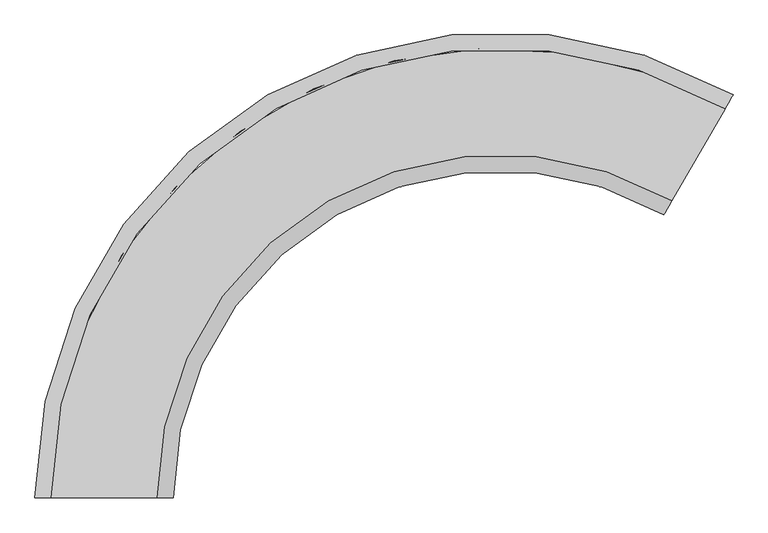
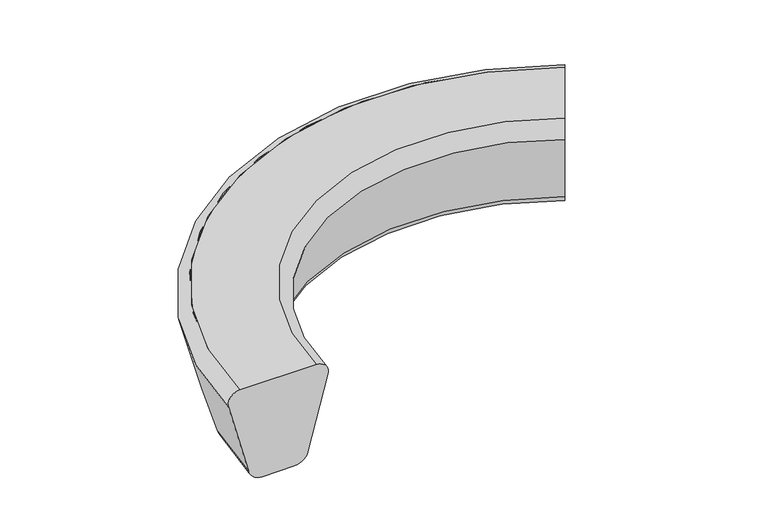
"""IFC4 building model written with IfcOpenShell, lengths in millimetres: furniture geometry, out-sider - Loop - Arc - Bench : out-sider - Loop - Arc - Bench."""

import ifcopenshell
import ifcopenshell.guid

model = None  # the IFC model being written
_history = None  # IfcOwnerHistory: only IFC2X3 demands one
_inside = {}  # id of a spatial element -> (the spatial element, [elements in it])
_under = {}  # id of a project, library or spatial element -> (it, [spatial elements below it])
_declared = {}  # id of a project -> (the project, [libraries it declares])
_typed = {}  # id of a type object -> (the type object, [elements of that type])
_made_of = {}  # id of a material, layer set ... -> (it, [elements and type objects made of it])


def new_model(schema):
    """Start an empty IFC model of exactly this schema.

    Asked for "IFC4X3", IfcOpenShell would pick the latest addendum, in which some entities
    have other attributes; the version numbers below select the first issue.
    IFC2X3 requires an IfcOwnerHistory on every rooted entity: one is made here for all.
    """
    global model, _history
    if schema == "IFC4X3":
        model = ifcopenshell.file(schema_version=(4, 3, 0, 0))
    else:
        model = ifcopenshell.file(schema=schema)
    _inside.clear()
    _under.clear()
    _declared.clear()
    _typed.clear()
    _made_of.clear()
    _history = None
    if model.schema == "IFC2X3":
        org = make("IfcOrganization", Name="unknown")
        user = make(
            "IfcPersonAndOrganization",
            ThePerson=make("IfcPerson", FamilyName="unknown"),
            TheOrganization=org,
        )
        app = make(
            "IfcApplication",
            ApplicationDeveloper=org,
            Version="unknown",
            ApplicationFullName="unknown",
            ApplicationIdentifier="unknown",
        )
        _history = make(
            "IfcOwnerHistory",
            OwningUser=user,
            OwningApplication=app,
            ChangeAction="ADDED",
            CreationDate=0,
        )
    return model


def make(cls, **values):
    """One entity of the class cls with the attributes given. An attribute that is None is left unset."""
    return model.create_entity(
        cls, **{name: value for name, value in values.items() if value is not None}
    )


def rooted(cls, **values):
    """An entity with a GlobalId (a new one), such as an element, a storey or a relation."""
    return make(cls, GlobalId=ifcopenshell.guid.new(), OwnerHistory=_history, **values)


def si_unit(unit_type, name, prefix=None):
    """IfcSIUnit, for example si_unit("LENGTHUNIT", "METRE", prefix="MILLI")."""
    return make("IfcSIUnit", UnitType=unit_type, Prefix=prefix, Name=name)


def assignment(units):
    """IfcUnitAssignment: the units of a project."""
    return None if units is None else make("IfcUnitAssignment", Units=units)


def point(xyz):
    """IfcCartesianPoint."""
    return None if xyz is None else make("IfcCartesianPoint", Coordinates=xyz)


def direction(xyz):
    """IfcDirection."""
    return None if xyz is None else make("IfcDirection", DirectionRatios=xyz)


def frame(location, z_axis=None, x_axis=None):
    """IfcAxis2Placement3D, a coordinate frame: its origin and axes. An axis left out is left unset."""
    return make(
        "IfcAxis2Placement3D",
        Location=point(location),
        Axis=direction(z_axis),
        RefDirection=direction(x_axis),
    )


def origin():
    """The frame at (0, 0, 0) with its axes left unset."""
    return frame((0.0, 0.0, 0.0))


def place(relative_to, where):
    """IfcLocalPlacement: puts the frame where relative to a parent placement (None: the world)."""
    return make(
        "IfcLocalPlacement", PlacementRelTo=relative_to, RelativePlacement=where
    )


def context(
    kind, dimensions, precision=None, world=None, true_north=None, identifier=None
):
    """IfcGeometricRepresentationContext, for example the 3D "Model" context."""
    return make(
        "IfcGeometricRepresentationContext",
        ContextIdentifier=identifier,
        ContextType=kind,
        CoordinateSpaceDimension=dimensions,
        Precision=precision,
        WorldCoordinateSystem=world,
        TrueNorth=true_north,
    )


def project(units=None, contexts=None):
    """IfcProject with its units and contexts."""
    return rooted(
        "IfcProject",
        Name="project",
        RepresentationContexts=contexts,
        UnitsInContext=assignment(units),
    )


def spatial(cls, under=None, at=None, **own):
    """A site, building, storey or space (cls), placed at a placement, below another one or the project."""
    s = rooted(cls, ObjectPlacement=at, **own)
    if under is not None:
        _under.setdefault(under.id(), (under, []))[1].append(s)
    return s


def polyline(points):
    """IfcPolyline through the points."""
    return make("IfcPolyline", Points=[point(p) for p in points])


def circle_curve(where, radius):
    """IfcCircle in the frame where."""
    return make("IfcCircle", Position=where, Radius=radius)


def ellipse_curve(where, semi_axis1, semi_axis2):
    """IfcEllipse in the frame where."""
    return make(
        "IfcEllipse", Position=where, SemiAxis1=semi_axis1, SemiAxis2=semi_axis2
    )


def trimmed(basis, trim1, trim2, sense, master):
    """IfcTrimmedCurve: the piece of a basis curve between two trims."""
    return make(
        "IfcTrimmedCurve",
        BasisCurve=basis,
        Trim1=trim1,
        Trim2=trim2,
        SenseAgreement=sense,
        MasterRepresentation=master,
    )


def shape(context_of_items, identifier, shape_type, items):
    """IfcShapeRepresentation: the items that make up one representation, for example the "Body"."""
    return make(
        "IfcShapeRepresentation",
        ContextOfItems=context_of_items,
        RepresentationIdentifier=identifier,
        RepresentationType=shape_type,
        Items=items,
    )


def source(mapping_origin, context_of_items, identifier, shape_type, items):
    """IfcRepresentationMap: a shape defined once, which mapped items show again and again."""
    return make(
        "IfcRepresentationMap",
        MappingOrigin=mapping_origin,
        MappedRepresentation=shape(context_of_items, identifier, shape_type, items),
    )


def transform(
    local_origin,
    x_axis=None,
    y_axis=None,
    z_axis=None,
    scale=None,
    scale2=None,
    scale3=None,
    uniform=True,
):
    """IfcCartesianTransformationOperator3D, or its non-uniform kind. x_axis, y_axis, z_axis: its Axis1, 2, 3."""
    if uniform:
        return make(
            "IfcCartesianTransformationOperator3D",
            Axis1=direction(x_axis),
            Axis2=direction(y_axis),
            LocalOrigin=point(local_origin),
            Scale=scale,
            Axis3=direction(z_axis),
        )
    return make(
        "IfcCartesianTransformationOperator3DnonUniform",
        Axis1=direction(x_axis),
        Axis2=direction(y_axis),
        LocalOrigin=point(local_origin),
        Scale=scale,
        Axis3=direction(z_axis),
        Scale2=scale2,
        Scale3=scale3,
    )


def mapped(mapping_source, mapping_target):
    """IfcMappedItem: shows the shape of a source again, moved by a transform."""
    return make(
        "IfcMappedItem", MappingSource=mapping_source, MappingTarget=mapping_target
    )


def made_of(thing, what):
    """Note that an element or type object is made of a material, layer set ...; save() writes the relation."""
    if what is not None:
        _made_of.setdefault(what.id(), (what, []))[1].append(thing)
    return thing


def element(
    cls,
    number,
    at=None,
    inside=None,
    cuts=None,
    type_object=None,
    material=None,
    context=None,
    identifier="Body",
    shape_type=None,
    held_by="IfcProductDefinitionShape",
    body=None,
    shapes=None,
    **own,
):
    """One element of the class cls, such as IfcWall. Its Tag is "e" and its number.

    at: its placement. inside: the storey or other place that contains it. cuts: it is an
    opening in that element (IfcRelVoidsElement). A single representation is given by context,
    identifier, shape_type and body (its items); several are given by shapes. held_by: the class
    of the entity that holds the representations. save() writes the other relations.
    """
    e = rooted(cls, Tag="e%d" % number, ObjectPlacement=at, **own)
    if body is not None:
        shapes = [shape(context, identifier, shape_type, body)]
    if shapes is not None:
        e.Representation = make(held_by, Representations=shapes)
    if inside is not None:
        _inside.setdefault(inside.id(), (inside, []))[1].append(e)
    if cuts is not None:
        rooted(
            "IfcRelVoidsElement", RelatingBuildingElement=cuts, RelatedOpeningElement=e
        )
    if type_object is not None:
        _typed.setdefault(type_object.id(), (type_object, []))[1].append(e)
    return made_of(e, material)


def aggregate(whole, parts):
    """IfcRelAggregates: a whole, such as a stair, and the parts it consists of."""
    return rooted("IfcRelAggregates", RelatingObject=whole, RelatedObjects=parts)


def save(model, path):
    """Write the relations noted so far, then the file.

    IfcRelAggregates (storeys below a building ...), IfcRelContainedInSpatialStructure (elements
    in a storey), IfcRelDefinesByType, IfcRelAssociatesMaterial and IfcRelDeclares: one each for
    every whole, place, type object, material and project.
    """
    for whole, parts in _under.values():
        aggregate(whole, parts)
    for where, things in _inside.values():
        rooted(
            "IfcRelContainedInSpatialStructure",
            RelatedElements=things,
            RelatingStructure=where,
        )
    for kind, things in _typed.values():
        rooted("IfcRelDefinesByType", RelatedObjects=things, RelatingType=kind)
    for what, things in _made_of.values():
        rooted("IfcRelAssociatesMaterial", RelatedObjects=things, RelatingMaterial=what)
    for by, libraries in _declared.values():
        rooted("IfcRelDeclares", RelatingContext=by, RelatedDefinitions=libraries)
    model.write(path)


def plane_surface(at):
    """IfcPlane: the flat surface through the origin of the frame at, square to its z axis."""
    return make("IfcPlane", Position=at)


def revolved_surface(curve, axis_point, axis_direction):
    """IfcSurfaceOfRevolution: the curve turned about the line through axis_point along axis_direction."""
    return make(
        "IfcSurfaceOfRevolution",
        SweptCurve=make("IfcArbitraryOpenProfileDef", ProfileType="CURVE", Curve=curve),
        AxisPosition=make("IfcAxis1Placement", Location=point(axis_point), Axis=direction(axis_direction)),
    )


def advanced_brep(points, edges, surfaces, faces):
    """IfcAdvancedBrep: a solid bounded by faces that lie on surfaces and meet in shared edges.

    An edge is (start, end): straight between two places in points (the first is 0);
    or (start, end, curve); or (start, end, curve, False) where it runs against its curve.
    A face is (place in surfaces, loops), or (place, loops, False) where it looks against
    its surface's normal. A loop lists edges by number (the first is 1), with a minus sign
    where the edge is run from its end to its start. The first loop is the outer one.
    """
    corners = [point(p) for p in points]
    vertices = [make("IfcVertexPoint", VertexGeometry=c) for c in corners]
    made = []
    for start, end, *more in edges:
        made.append(
            make(
                "IfcEdgeCurve",
                EdgeStart=vertices[start],
                EdgeEnd=vertices[end],
                EdgeGeometry=more[0] if more else make("IfcPolyline", Points=[corners[start], corners[end]]),
                SameSense=more[1] if len(more) > 1 else True,
            )
        )
    hull = []
    for where, loops, *sense in faces:
        bounds = []
        for j, loop in enumerate(loops):
            ring = [make("IfcOrientedEdge", EdgeElement=made[abs(k) - 1], Orientation=k > 0) for k in loop]
            bounds.append(
                make(
                    "IfcFaceOuterBound" if j == 0 else "IfcFaceBound",
                    Bound=make("IfcEdgeLoop", EdgeList=ring),
                    Orientation=True,
                )
            )
        hull.append(make("IfcAdvancedFace", Bounds=bounds, FaceSurface=surfaces[where], SameSense=sense[0] if sense else True))
    return make("IfcAdvancedBrep", Outer=make("IfcClosedShell", CfsFaces=hull))


def furniture_7adfde9e(model_context):
    return source(origin(), model_context, "Body", "AdvancedBrep", [
        advanced_brep(
        [(-199.3955929, 0.0, 341.3051683), (-119.141303, 0.0, 41.7920808), (-64.3650739, 0.0, -0.2391981), (64.3650739, 0.0, -0.2391981), (119.141303, 0.0, 41.7920808), (199.3955929, 0.0, 341.3051683), (154.5786782, 0.0, 399.7117088), (-154.5786782, 0.0, 399.7117088), (1824.6348107, 1168.5744984, 341.3051683), (1802.2263534, 1129.7619117, 399.7117088), (1647.6476752, 862.0237874, 399.7117088), (1625.2392178, 823.2112007, 341.3051683), (1665.3663628, 892.7134545, 41.7920808), (1692.7544774, 940.1510605, -0.2391981), (1757.1195512, 1051.6346386, -0.2391981), (1784.5076658, 1099.0722446, 41.7920808)],
        [
            (0, 1),
            (1, 2, circle_curve(frame((-64.3650739, 0.0, 56.4693272), z_axis=(0.0, -1.0, 0.0), x_axis=(1.0, 0.0, 0.0)), 56.7085253)),
            (2, 3),
            (3, 4, circle_curve(frame((64.3650739, 0.0, 56.4693272), z_axis=(0.0, -1.0, 0.0), x_axis=(-1.0, 0.0, 0.0)), 56.7085253)),
            (4, 5),
            (5, 6, circle_curve(frame((154.5786782, 0.0, 353.3138245), z_axis=(0.0, -1.0, 0.0), x_axis=(-1.0, 0.0, 0.0)), 46.3978843)),
            (6, 7),
            (7, 0, circle_curve(frame((-154.5786782, 0.0, 353.3138245), z_axis=(0.0, -1.0, 0.0), x_axis=(1.0, 0.0, 0.0)), 46.3978843)),
            (8, 9, circle_curve(frame((1802.2263534, 1129.7619117, 353.3138245), z_axis=(0.8660254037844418, -0.4999999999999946, 0.0), x_axis=(-0.4999999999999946, -0.8660254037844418, 0.0)), 46.3978843)),
            (9, 10),
            (10, 11, circle_curve(frame((1647.6476752, 862.0237874, 353.3138245), z_axis=(0.8660254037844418, -0.49999999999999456, 0.0), x_axis=(0.49999999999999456, 0.8660254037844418, 0.0)), 46.3978843)),
            (11, 12),
            (12, 13, circle_curve(frame((1692.7544774, 940.1510605, 56.4693272), z_axis=(0.8660254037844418, -0.49999999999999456, 0.0), x_axis=(0.49999999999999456, 0.8660254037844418, 0.0)), 56.7085253)),
            (13, 14),
            (14, 15, circle_curve(frame((1757.1195512, 1051.6346386, 56.4693272), z_axis=(0.8660254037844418, -0.4999999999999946, 0.0), x_axis=(-0.4999999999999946, -0.8660254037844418, 0.0)), 56.7085253)),
            (15, 8),
            (8, 0, circle_curve(frame((1149.9580095, 0.0, 341.3051683), z_axis=(0.0, 0.0, 1.0), x_axis=(-1.0, 0.0, 0.0)), 1349.3536025)),
            (7, 9, circle_curve(frame((1149.9580095, 0.0, 399.7117088), z_axis=(0.0, 0.0, -1.0), x_axis=(-1.0, 0.0, 0.0)), 1304.5366877)),
            (15, 1, circle_curve(frame((1149.9580095, 0.0, 41.7920808), z_axis=(0.0, 0.0, 1.0), x_axis=(-1.0, 0.0, 0.0)), 1269.0993125)),
            (14, 2, circle_curve(frame((1149.9580095, 0.0, -0.2391981), z_axis=(0.0, 0.0, 1.0), x_axis=(-1.0, 0.0, 0.0)), 1214.3230834)),
            (13, 3, circle_curve(frame((1149.9580095, 0.0, -0.2391981), z_axis=(0.0, 0.0, 1.0), x_axis=(-1.0, 0.0, 0.0)), 1085.5929357)),
            (12, 4, circle_curve(frame((1149.9580095, 0.0, 41.7920808), z_axis=(0.0, 0.0, 1.0), x_axis=(-1.0, 0.0, 0.0)), 1030.8167065)),
            (11, 5, circle_curve(frame((1149.9580095, 0.0, 341.3051683), z_axis=(0.0, 0.0, 1.0), x_axis=(-1.0, 0.0, 0.0)), 950.5624166)),
            (10, 6, circle_curve(frame((1149.9580095, 0.0, 399.7117088), z_axis=(0.0, 0.0, 1.0), x_axis=(-1.0, 0.0, 0.0)), 995.3793314)),
        ],
        [
            plane_surface(frame((0.0, 0.0, 0.0), z_axis=(0.0, -1.0, 0.0), x_axis=(0.0, 0.0, 1.0))),
            plane_surface(frame((1724.9370143, 995.8928495, 0.0), z_axis=(0.8660254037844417, -0.49999999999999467, 0.0), x_axis=(0.0, 0.0, 1.0))),
            revolved_surface(trimmed(ellipse_curve(frame((-154.5786782, 0.0, 353.3138245), z_axis=(0.0, -1.0, 0.0), x_axis=(1.0, 0.0, 0.0)), 46.3978843, 46.3978843), [point((-154.5786782, 0.0, 399.7117088))], [point((-199.3955929, 0.0, 341.3051683))], True, "CARTESIAN"), (1149.9580095, 0.0, 0.0), (0.0, 0.0, -1.0)),
            revolved_surface(polyline([(-199.3955929, 0.0, 341.3051683), (-119.141303, 0.0, 41.7920808)]), (1149.9580095, 0.0, 0.0), (0.0, 0.0, -1.0)),
            revolved_surface(trimmed(ellipse_curve(frame((-64.3650739, 0.0, 56.4693272), z_axis=(0.0, -1.0, 0.0), x_axis=(1.0, 0.0, 0.0)), 56.7085253, 56.7085253), [point((-119.141303, 0.0, 41.7920808))], [point((-64.3650739, 0.0, -0.2391981))], True, "CARTESIAN"), (1149.9580095, 0.0, 0.0), (0.0, 0.0, -1.0)),
            plane_surface(frame((1149.9580095, 0.0, -0.2391981), z_axis=(0.0, 0.0, -1.0), x_axis=(-1.0, 0.0, 0.0))),
            revolved_surface(trimmed(ellipse_curve(frame((64.3650739, 0.0, 56.4693272), z_axis=(0.0, -1.0, 0.0), x_axis=(-1.0, 0.0, 0.0)), 56.7085253, 56.7085253), [point((64.3650739, 0.0, -0.2391981))], [point((119.141303, 0.0, 41.7920808))], True, "CARTESIAN"), (1149.9580095, 0.0, 0.0), (0.0, 0.0, -1.0)),
            revolved_surface(polyline([(119.141303, 0.0, 41.7920808), (199.3955929, 0.0, 341.3051683)]), (1149.9580095, 0.0, 0.0), (0.0, 0.0, -1.0)),
            revolved_surface(trimmed(ellipse_curve(frame((154.5786782, 0.0, 353.3138245), z_axis=(0.0, -1.0, 0.0), x_axis=(-1.0, 0.0, 0.0)), 46.3978843, 46.3978843), [point((199.3955929, 0.0, 341.3051683))], [point((154.5786782, 0.0, 399.7117088))], True, "CARTESIAN"), (1149.9580095, 0.0, 0.0), (0.0, 0.0, -1.0)),
            plane_surface(frame((1149.9580095, 0.0, 399.7117088), z_axis=(0.0, 0.0, 1.0), x_axis=(-1.0, 0.0, 0.0))),
        ],
        [
            (0, [[1, 2, 3, 4, 5, 6, 7, 8]]),
            (1, [[9, 10, 11, 12, 13, 14, 15, 16]]),
            (2, [[17, -8, 18, -9]]),
            (3, [[19, -1, -17, -16]]),
            (4, [[20, -2, -19, -15]]),
            (5, [[21, -3, -20, -14]]),
            (6, [[22, -4, -21, -13]]),
            (7, [[23, -5, -22, -12]]),
            (8, [[24, -6, -23, -11]]),
            (9, [[-18, -7, -24, -10]]),
        ],
    ),
    ])


if __name__ == "__main__":
    model = new_model("IFC4")
    model_context = context("Model", 3, world=origin())
    ifc_project = project(units=[si_unit("LENGTHUNIT", "METRE", prefix="MILLI")], contexts=[model_context])
    site = spatial("IfcSite", under=ifc_project)
    building = spatial("IfcBuilding", under=site)
    placement = place(None, origin())
    furniture_shape = furniture_7adfde9e(model_context)
    element("IfcFurniture", 1, ObjectType="out-sider - Loop - Arc - Bench : out-sider - Loop - Arc - Bench", at=placement, inside=building, context=model_context, shape_type="MappedRepresentation", body=[
        mapped(furniture_shape, transform((0.0, 0.0, 0.0), x_axis=(1.0, 0.0, 0.0), y_axis=(0.0, 1.0, 0.0), z_axis=(0.0, 0.0, 1.0))),
    ])
    save(model, "model.ifc")
